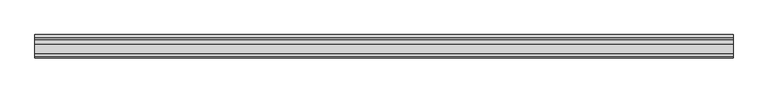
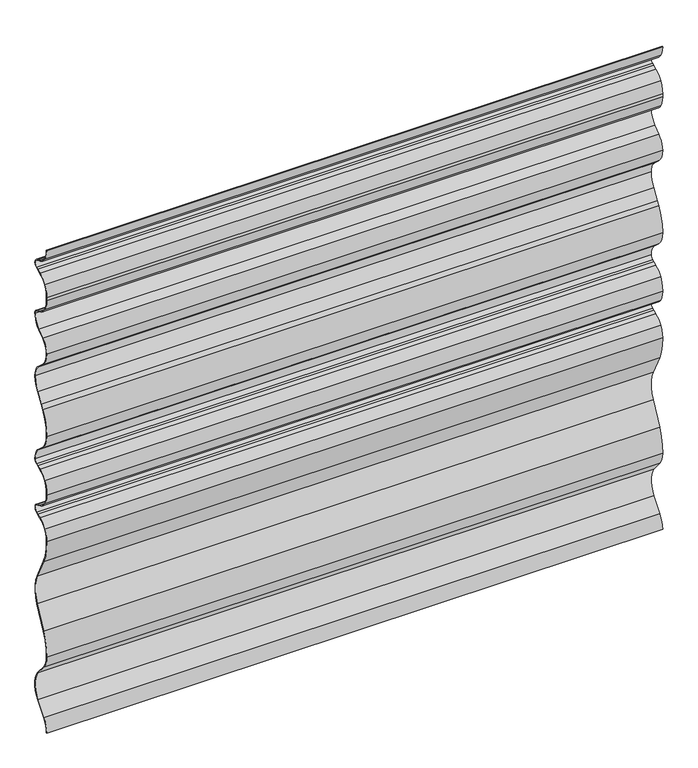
"""IFC4 building model written with IfcOpenShell, lengths in millimetres: plate geometry, Ritmica Horizontal 928 : Ritmica Horizontal 928."""

from ifc_helpers import new_model, si_unit, frame, origin, place, context, project, spatial, polyline, circle_curve, source, transform, mapped, element, save
from ifc_brep_helpers import plane_surface, cylinder_surface, revolved_surface, advanced_brep


def plate_309b9aa2(model_context):
    return source(origin(), model_context, "Body", "AdvancedBrep", [
        advanced_brep(
        [(-560.0, 6.5092615, 908.0620129), (-560.0, 21.2621067, 895.6153968), (-560.0, 28.45755, 892.7364297), (-560.0, 31.9226364, 891.0770661), (-560.0, 31.9284533, 875.0954695), (-560.0, 28.4645758, 873.4335839), (-560.0, 21.2712303, 870.5493796), (-560.0, 6.5274495, 858.0920274), (-560.0, 0.7421798, 836.9983174), (-560.0, 0.7421798, 831.6596456), (-560.0, 6.5447465, 810.5701527), (-560.0, 21.2975918, 798.1235366), (-560.0, 28.493035, 795.2445695), (-560.0, 31.9581214, 793.5852059), (-560.0, 36.9921573, 785.5962388), (-560.0, 24.9656186, 760.6206134), (-560.0, 12.9828956, 751.0704574), (-560.0, 1.0048783, 728.5919745), (-560.0, 13.0090533, 701.127971), (-560.0, 24.9992939, 690.0241978), (-560.0, 37.0440106, 665.0573339), (-560.0, 28.6299997, 638.3240963), (-560.0, 17.4991449, 620.9910926), (-560.0, 13.1043036, 613.5575548), (-560.0, 0.921776, 569.3793833), (-560.0, 12.9259511, 541.9153798), (-560.0, 24.9161915, 530.8116067), (-560.0, 36.9609087, 505.8415328), (-560.0, 31.9326896, 497.8521133), (-560.0, 28.4688119, 496.1902275), (-560.0, 21.2754341, 493.3060102), (-560.0, 6.5316868, 480.8486726), (-560.0, 0.8337564, 457.0856569), (-560.0, 6.3430179, 437.5469103), (-560.0, 21.0958632, 425.1002943), (-560.0, 28.2913064, 422.2213272), (-560.0, 31.7563928, 420.5619636), (-560.0, 31.7622098, 404.580367), (-560.0, 28.2983323, 402.9184814), (-560.0, 21.1049867, 400.034277), (-560.0, 6.361206, 387.5769248), (-560.0, 0.8661693, 368.0341733), (-560.0, 10.0476711, 324.2892209), (-560.0, 30.4443377, 283.7581494), (-560.0, 30.4639577, 229.8542794), (-560.0, 10.0968014, 189.3083707), (-560.0, 0.9471466, 145.5567461), (-560.0, 9.5590077, 121.7925982), (-560.0, 28.254799, 99.3683726), (-560.0, 28.274038, 46.5109184), (-560.0, 9.5945757, 23.7707747), (-560.0, 1.0000163, 0.0), (-560.0, 1.63e-05, 0.0), (-560.0, 8.826039, 24.4105804), (-560.0, 27.4885473, 47.1303588), (-560.0, 27.4697594, 98.7483605), (-560.0, 8.790937, 121.1522332), (-560.0, -0.0528427, 145.5386154), (-560.0, 9.1993025, 189.7494732), (-560.0, 29.5703625, 230.3031531), (-560.0, 29.5510695, 283.3086253), (-560.0, 9.1504935, 323.8474651), (-560.0, -0.133833, 368.0515751), (-560.0, 5.5079347, 388.0983921), (-560.0, 20.7330524, 400.9625361), (-560.0, 27.895533, 403.834365), (-560.0, 31.3296428, 405.4819688), (-560.0, 31.3244823, 419.6600471), (-560.0, 27.889174, 421.3051505), (-560.0, 20.7246046, 424.1717647), (-560.0, 5.4901265, 437.024822), (-560.0, -0.1662181, 457.0529178), (-560.0, 5.6750593, 481.3646468), (-560.0, 20.9034647, 494.2342551), (-560.0, 28.0660127, 497.1061111), (-560.0, 31.5001226, 498.7537151), (-560.0, 35.9609087, 505.841531), (-560.0, 24.2645169, 530.052163), (-560.0, 12.2464871, 541.1816709), (-560.0, -0.0782183, 569.3680226), (-560.0, 12.2502128, 614.0778463), (-560.0, 16.6477304, 621.5159109), (-560.0, 27.7982686, 638.8795656), (-560.0, 36.04401, 665.0587755), (-560.0, 24.3475224, 689.2648438), (-560.0, 12.3295893, 700.3942621), (-560.0, 0.0048783, 728.5916105), (-560.0, 12.391292, 751.8777021), (-560.0, 24.342358, 761.4026277), (-560.0, 35.9921573, 785.5958749), (-560.0, 31.5262109, 792.6832895), (-560.0, 28.0909026, 794.3283929), (-560.0, 20.9248539, 797.1955989), (-560.0, 5.6893168, 810.0521734), (-560.0, -0.2558769, 831.6592816), (-560.0, -0.2578202, 836.9981365), (-560.0, 5.6708241, 858.6080051), (-560.0, 20.8992959, 871.4776387), (-560.0, 28.0617766, 874.3494676), (-560.0, 31.4958863, 875.9970713), (-560.0, 31.4907258, 890.1751497), (-560.0, 28.0554176, 891.8202531), (-560.0, 20.8908482, 894.6868673), (-560.0, 5.6563701, 907.5399245), (-560.0, 0.0, 927.600395), (-560.0, 1.0000001, 927.600395), (560.0, 6.5092615, 908.0620129), (560.0, 1.0000001, 927.600395), (560.0, 0.0, 927.600395), (560.0, 5.6563701, 907.5399245), (560.0, 20.8908482, 894.6868673), (560.0, 28.0554176, 891.8202531), (560.0, 31.4907258, 890.1751497), (560.0, 31.4958863, 875.9970713), (560.0, 28.0617766, 874.3494676), (560.0, 20.8992959, 871.4776387), (560.0, 5.6708241, 858.6080051), (560.0, -0.2578202, 836.9981365), (560.0, -0.2578202, 831.6596456), (560.0, 5.6893168, 810.0521734), (560.0, 20.9248539, 797.1955989), (560.0, 28.0909026, 794.3283929), (560.0, 31.5262109, 792.6832895), (560.0, 35.9921573, 785.5958749), (560.0, 24.342358, 761.4026277), (560.0, 12.391292, 751.8777021), (560.0, 0.0048783, 728.5916105), (560.0, 12.3295893, 700.3942621), (560.0, 24.3475224, 689.2648438), (560.0, 36.04401, 665.0587755), (560.0, 27.7982686, 638.8795656), (560.0, 16.6477304, 621.5159109), (560.0, 12.2502128, 614.0778463), (560.0, -0.0782183, 569.3680226), (560.0, 12.2464871, 541.1816709), (560.0, 24.2645169, 530.052163), (560.0, 35.9609087, 505.841531), (560.0, 31.5001226, 498.7537151), (560.0, 28.0660127, 497.1061111), (560.0, 20.9034647, 494.2342551), (560.0, 5.6750593, 481.3646468), (560.0, -0.1662181, 457.0529178), (560.0, 5.4901265, 437.024822), (560.0, 20.7246046, 424.1717647), (560.0, 27.889174, 421.3051505), (560.0, 31.3244823, 419.6600471), (560.0, 31.3296428, 405.4819688), (560.0, 27.895533, 403.834365), (560.0, 20.7330524, 400.9625361), (560.0, 5.5079347, 388.0983921), (560.0, -0.133833, 368.0515751), (560.0, 9.1504935, 323.8474651), (560.0, 29.5510695, 283.3086253), (560.0, 29.5703625, 230.3031531), (560.0, 9.1993025, 189.7494732), (560.0, -0.0528427, 145.5386154), (560.0, 8.790937, 121.1522332), (560.0, 27.4697594, 98.7483605), (560.0, 27.4885473, 47.1303588), (560.0, 8.826039, 24.4105804), (560.0, 1.63e-05, 0.0), (560.0, 1.0000163, 0.0), (560.0, 9.5945757, 23.7707747), (560.0, 28.274038, 46.5109184), (560.0, 28.254799, 99.3683726), (560.0, 9.5590077, 121.7925982), (560.0, 0.9471466, 145.5567461), (560.0, 10.0968014, 189.3083707), (560.0, 30.4639577, 229.8542794), (560.0, 30.4443377, 283.7581494), (560.0, 10.0476711, 324.2892209), (560.0, 0.8661693, 368.0341733), (560.0, 6.361206, 387.5769248), (560.0, 21.1049867, 400.034277), (560.0, 28.2983323, 402.9184814), (560.0, 31.7622098, 404.580367), (560.0, 31.7563928, 420.5619636), (560.0, 28.2913064, 422.2213272), (560.0, 21.0958632, 425.1002943), (560.0, 6.3430179, 437.5469103), (560.0, 0.8337564, 457.0856569), (560.0, 6.5316868, 480.8486726), (560.0, 21.2754341, 493.3060102), (560.0, 28.4688119, 496.1902275), (560.0, 31.9326896, 497.8521133), (560.0, 36.9609087, 505.8415328), (560.0, 24.9161915, 530.8116067), (560.0, 12.9259511, 541.9153798), (560.0, 0.921776, 569.3793833), (560.0, 13.1043036, 613.5575548), (560.0, 17.4991449, 620.9910926), (560.0, 28.6299997, 638.3240963), (560.0, 37.0440106, 665.0573339), (560.0, 24.9992939, 690.0241978), (560.0, 13.0090533, 701.127971), (560.0, 1.0048783, 728.5919745), (560.0, 12.9828956, 751.0704574), (560.0, 24.9656186, 760.6206134), (560.0, 36.9921573, 785.5962388), (560.0, 31.9581214, 793.5852059), (560.0, 28.493035, 795.2445695), (560.0, 21.2975918, 798.1235366), (560.0, 6.5447465, 810.5701527), (560.0, 0.744123, 831.6596456), (560.0, 0.7421798, 836.9983174), (560.0, 6.5274495, 858.0920274), (560.0, 21.2712303, 870.5493796), (560.0, 28.4645758, 873.4335839), (560.0, 31.9284533, 875.0954695), (560.0, 31.9226364, 891.0770661), (560.0, 28.45755, 892.7364297), (560.0, 21.2621067, 895.6153968)],
        [
            (0, 1, circle_curve(frame((-560.0, 32.6219637, 924.0466233), z_axis=(1.0, 0.0, 0.0), x_axis=(0.0, 0.0, 1.0)), 30.6166783)),
            (1, 2),
            (2, 3),
            (3, 4, circle_curve(frame((-560.0, 28.0953282, 883.0848737), z_axis=(-1.0, 0.0, 0.0), x_axis=(0.0, 0.0, 1.0)), 8.8613445)),
            (4, 5),
            (5, 6),
            (6, 7, circle_curve(frame((-560.0, 32.651781, 842.1264302), z_axis=(1.0, 0.0, 0.0), x_axis=(0.0, 0.0, 1.0)), 30.6166783)),
            (7, 8, circle_curve(frame((-560.0, 42.034972, 837.0133472), z_axis=(1.0, 0.0, 0.0), x_axis=(0.0, 0.0, 1.0)), 41.2927949)),
            (8, 9),
            (9, 10, circle_curve(frame((-560.0, 42.0369151, 831.6746753), z_axis=(1.0, 0.0, 0.0), x_axis=(0.0, 0.0, 1.0)), 41.2927949)),
            (10, 11, circle_curve(frame((-560.0, 32.8606059, 826.7955631), z_axis=(1.0, 0.0, 0.0), x_axis=(0.0, 0.0, 1.0)), 30.9158276)),
            (11, 12),
            (12, 13),
            (13, 14, circle_curve(frame((-560.0, 28.1308133, 785.5930135), z_axis=(-1.0, 0.0, 0.0), x_axis=(0.0, 0.0, 1.0)), 8.8613445)),
            (14, 15, circle_curve(frame((-560.0, 5.0694602, 785.5846196), z_axis=(-1.0, 0.0, 0.0), x_axis=(0.0, 0.0, 1.0)), 31.9226992)),
            (15, 16),
            (16, 17, circle_curve(frame((-560.0, 28.0674647, 728.6018247), z_axis=(1.0, 0.0, 0.0), x_axis=(0.0, 0.0, 1.0)), 27.0625882)),
            (17, 18, circle_curve(frame((-560.0, 38.4552002, 728.6056057), z_axis=(1.0, 0.0, 0.0), x_axis=(0.0, 0.0, 1.0)), 37.4503244)),
            (18, 19),
            (19, 20, circle_curve(frame((-560.0, 5.1213136, 665.0457146), z_axis=(-1.0, 0.0, 0.0), x_axis=(0.0, 0.0, 1.0)), 31.9226992)),
            (20, 21, circle_curve(frame((-560.0, -10.1198118, 665.2109304), z_axis=(-1.0, 0.0, 0.0), x_axis=(0.0, 0.0, 1.0)), 47.1640725)),
            (21, 22),
            (22, 23),
            (23, 24, circle_curve(frame((-560.0, 80.6713796, 571.1565204), z_axis=(1.0, 0.0, 0.0), x_axis=(0.0, 0.0, 1.0)), 79.769402)),
            (24, 25, circle_curve(frame((-560.0, 38.372098, 569.3930144), z_axis=(1.0, 0.0, 0.0), x_axis=(0.0, 0.0, 1.0)), 37.4503244)),
            (25, 26),
            (26, 27, circle_curve(frame((-560.0, 5.0555271, 505.8414768), z_axis=(-1.0, 0.0, 0.0), x_axis=(0.0, 0.0, 1.0)), 31.9053816)),
            (27, 28, circle_curve(frame((-560.0, 28.0995643, 505.8415173), z_axis=(-1.0, 0.0, 0.0), x_axis=(0.0, 0.0, 1.0)), 8.8613444)),
            (28, 29),
            (29, 30),
            (30, 31, circle_curve(frame((-560.0, 32.6560172, 464.8830737), z_axis=(1.0, 0.0, 0.0), x_axis=(0.0, 0.0, 1.0)), 30.6166783)),
            (31, 32, circle_curve(frame((-560.0, 42.0392082, 459.7699907), z_axis=(1.0, 0.0, 0.0), x_axis=(0.0, 0.0, 1.0)), 41.2927948)),
            (32, 33, circle_curve(frame((-560.0, 38.2840783, 457.0992876), z_axis=(1.0, 0.0, 0.0), x_axis=(0.0, 0.0, 1.0)), 37.4503244)),
            (33, 34, circle_curve(frame((-560.0, 32.4557202, 453.5315208), z_axis=(1.0, 0.0, 0.0), x_axis=(0.0, 0.0, 1.0)), 30.6166783)),
            (34, 35),
            (35, 36),
            (36, 37, circle_curve(frame((-560.0, 27.9290847, 412.5697711), z_axis=(-1.0, 0.0, 0.0), x_axis=(0.0, 0.0, 1.0)), 8.8613445)),
            (37, 38),
            (38, 39),
            (39, 40, circle_curve(frame((-560.0, 32.4855375, 371.6113276), z_axis=(1.0, 0.0, 0.0), x_axis=(0.0, 0.0, 1.0)), 30.6166783)),
            (40, 41, circle_curve(frame((-560.0, 38.3164913, 368.0478045), z_axis=(1.0, 0.0, 0.0), x_axis=(0.0, 0.0, 1.0)), 37.4503244)),
            (41, 42, circle_curve(frame((-560.0, 94.1023268, 364.7672254), z_axis=(1.0, 0.0, 0.0), x_axis=(0.0, 0.0, 1.0)), 93.293376)),
            (42, 43),
            (43, 44, circle_curve(frame((-560.0, -23.1517542, 256.7867029), z_axis=(-1.0, 0.0, 0.0), x_axis=(0.0, 0.0, 1.0)), 60.0)),
            (44, 45),
            (45, 46, circle_curve(frame((-560.0, 94.1809012, 148.8915653), z_axis=(1.0, 0.0, 0.0), x_axis=(0.0, 0.0, 1.0)), 93.293376)),
            (46, 47, circle_curve(frame((-560.0, 38.0785645, 145.5702612), z_axis=(1.0, 0.0, 0.0), x_axis=(0.0, 0.0, 1.0)), 37.1314203)),
            (47, 48),
            (48, 49, circle_curve(frame((-560.0, -7.0897542, 72.9267773), z_axis=(-1.0, 0.0, 0.0), x_axis=(0.0, 0.0, 1.0)), 44.1406321)),
            (49, 50),
            (50, 51, circle_curve(frame((-560.0, 38.131434, 0.0138791), z_axis=(1.0, 0.0, 0.0), x_axis=(0.0, 0.0, 1.0)), 37.1314203)),
            (51, 52),
            (52, 53, circle_curve(frame((-560.0, 38.131434, 0.0138791), z_axis=(-1.0, 0.0, 0.0), x_axis=(0.0, 0.0, 1.0)), 38.1314203)),
            (53, 54),
            (54, 55, circle_curve(frame((-560.0, -7.0897542, 72.9267773), z_axis=(1.0, 0.0, 0.0), x_axis=(0.0, 0.0, 1.0)), 43.1406321)),
            (55, 56),
            (56, 57, circle_curve(frame((-560.0, 38.0785645, 145.5702612), z_axis=(-1.0, 0.0, 0.0), x_axis=(0.0, 0.0, 1.0)), 38.1314203)),
            (57, 58, circle_curve(frame((-560.0, 94.1809012, 148.8915653), z_axis=(-1.0, 0.0, 0.0), x_axis=(0.0, 0.0, 1.0)), 94.293376)),
            (58, 59),
            (59, 60, circle_curve(frame((-560.0, -23.1517542, 256.7867029), z_axis=(1.0, 0.0, 0.0), x_axis=(0.0, 0.0, 1.0)), 59.0)),
            (60, 61),
            (61, 62, circle_curve(frame((-560.0, 94.1023268, 364.7672254), z_axis=(-1.0, 0.0, 0.0), x_axis=(0.0, 0.0, 1.0)), 94.293376)),
            (62, 63, circle_curve(frame((-560.0, 38.3164913, 368.0478045), z_axis=(-1.0, 0.0, 0.0), x_axis=(0.0, 0.0, 1.0)), 38.4503244)),
            (63, 64, circle_curve(frame((-560.0, 32.4855375, 371.6113276), z_axis=(-1.0, 0.0, 0.0), x_axis=(0.0, 0.0, 1.0)), 31.6166783)),
            (64, 65),
            (65, 66),
            (66, 67, circle_curve(frame((-560.0, 27.9290847, 412.5697711), z_axis=(1.0, 0.0, 0.0), x_axis=(0.0, 0.0, 1.0)), 7.8613445)),
            (67, 68),
            (68, 69),
            (69, 70, circle_curve(frame((-560.0, 32.4557202, 453.5315208), z_axis=(-1.0, 0.0, 0.0), x_axis=(0.0, 0.0, 1.0)), 31.6166783)),
            (70, 71, circle_curve(frame((-560.0, 38.2840783, 457.0992876), z_axis=(-1.0, 0.0, 0.0), x_axis=(0.0, 0.0, 1.0)), 38.4503244)),
            (71, 72, circle_curve(frame((-560.0, 42.0392082, 459.7699907), z_axis=(-1.0, 0.0, 0.0), x_axis=(0.0, 0.0, 1.0)), 42.2927948)),
            (72, 73, circle_curve(frame((-560.0, 32.6560172, 464.8830737), z_axis=(-1.0, 0.0, 0.0), x_axis=(0.0, 0.0, 1.0)), 31.6166782)),
            (73, 74),
            (74, 75),
            (75, 76, circle_curve(frame((-560.0, 28.0995643, 505.8415173), z_axis=(1.0, 0.0, 0.0), x_axis=(0.0, 0.0, 1.0)), 7.8613444)),
            (76, 77, circle_curve(frame((-560.0, 5.0555271, 505.8414768), z_axis=(1.0, 0.0, 0.0), x_axis=(0.0, 0.0, 1.0)), 30.9053816)),
            (77, 78),
            (78, 79, circle_curve(frame((-560.0, 38.372098, 569.3930144), z_axis=(-1.0, 0.0, 0.0), x_axis=(0.0, 0.0, 1.0)), 38.4503244)),
            (79, 80, circle_curve(frame((-560.0, 80.6713796, 571.1565204), z_axis=(-1.0, 0.0, 0.0), x_axis=(0.0, 0.0, 1.0)), 80.769402)),
            (80, 81),
            (81, 82),
            (82, 83, circle_curve(frame((-560.0, -10.1198118, 665.2109304), z_axis=(1.0, 0.0, 0.0), x_axis=(0.0, 0.0, 1.0)), 46.1640725)),
            (83, 84, circle_curve(frame((-560.0, 5.1213136, 665.0457146), z_axis=(1.0, 0.0, 0.0), x_axis=(0.0, 0.0, 1.0)), 30.9226992)),
            (84, 85),
            (85, 86, circle_curve(frame((-560.0, 38.4552002, 728.6056057), z_axis=(-1.0, 0.0, 0.0), x_axis=(0.0, 0.0, 1.0)), 38.4503244)),
            (86, 87, circle_curve(frame((-560.0, 28.0674647, 728.6018247), z_axis=(-1.0, 0.0, 0.0), x_axis=(0.0, 0.0, 1.0)), 28.0625882)),
            (87, 88),
            (88, 89, circle_curve(frame((-560.0, 5.0694602, 785.5846196), z_axis=(1.0, 0.0, 0.0), x_axis=(0.0, 0.0, 1.0)), 30.9226992)),
            (89, 90, circle_curve(frame((-560.0, 28.1308133, 785.5930135), z_axis=(1.0, 0.0, 0.0), x_axis=(0.0, 0.0, 1.0)), 7.8613445)),
            (90, 91),
            (91, 92),
            (92, 93, circle_curve(frame((-560.0, 32.8606059, 826.7955631), z_axis=(-1.0, 0.0, 0.0), x_axis=(0.0, 0.0, 1.0)), 31.9158276)),
            (93, 94, circle_curve(frame((-560.0, 42.0369151, 831.6746753), z_axis=(-1.0, 0.0, 0.0), x_axis=(0.0, 0.0, 1.0)), 42.2927949)),
            (94, 95),
            (95, 96, circle_curve(frame((-560.0, 42.034972, 837.0133472), z_axis=(-1.0, 0.0, 0.0), x_axis=(0.0, 0.0, 1.0)), 42.2927949)),
            (96, 97, circle_curve(frame((-560.0, 32.651781, 842.1264302), z_axis=(-1.0, 0.0, 0.0), x_axis=(0.0, 0.0, 1.0)), 31.6166783)),
            (97, 98),
            (98, 99),
            (99, 100, circle_curve(frame((-560.0, 28.0953282, 883.0848737), z_axis=(1.0, 0.0, 0.0), x_axis=(0.0, 0.0, 1.0)), 7.8613445)),
            (100, 101),
            (101, 102),
            (102, 103, circle_curve(frame((-560.0, 32.6219637, 924.0466233), z_axis=(-1.0, 0.0, 0.0), x_axis=(0.0, 0.0, 1.0)), 31.6166783)),
            (103, 104, circle_curve(frame((-560.0, 38.4503219, 927.6143902), z_axis=(-1.0, 0.0, 0.0), x_axis=(0.0, 0.0, 1.0)), 38.4503244)),
            (104, 105),
            (105, 0, circle_curve(frame((-560.0, 38.4503219, 927.6143902), z_axis=(1.0, 0.0, 0.0), x_axis=(0.0, 0.0, 1.0)), 37.4503244)),
            (106, 107, circle_curve(frame((560.0, 38.4503219, 927.6143902), z_axis=(-1.0, 0.0, 0.0), x_axis=(0.0, 0.0, 1.0)), 37.4503244)),
            (107, 108),
            (108, 109, circle_curve(frame((560.0, 38.4503219, 927.6143902), z_axis=(1.0, 0.0, 0.0), x_axis=(0.0, 0.0, 1.0)), 38.4503244)),
            (109, 110, circle_curve(frame((560.0, 32.6219637, 924.0466233), z_axis=(1.0, 0.0, 0.0), x_axis=(0.0, 0.0, 1.0)), 31.6166783)),
            (110, 111),
            (111, 112),
            (112, 113, circle_curve(frame((560.0, 28.0953282, 883.0848737), z_axis=(-1.0, 0.0, 0.0), x_axis=(0.0, 0.0, 1.0)), 7.8613445)),
            (113, 114),
            (114, 115),
            (115, 116, circle_curve(frame((560.0, 32.651781, 842.1264302), z_axis=(1.0, 0.0, 0.0), x_axis=(0.0, 0.0, 1.0)), 31.6166783)),
            (116, 117, circle_curve(frame((560.0, 42.034972, 837.0133472), z_axis=(1.0, 0.0, 0.0), x_axis=(0.0, 0.0, 1.0)), 42.2927949)),
            (117, 118),
            (118, 119, circle_curve(frame((560.0, 42.0369151, 831.6746753), z_axis=(1.0, 0.0, 0.0), x_axis=(0.0, 0.0, 1.0)), 42.2927949)),
            (119, 120, circle_curve(frame((560.0, 32.8606059, 826.7955631), z_axis=(1.0, 0.0, 0.0), x_axis=(0.0, 0.0, 1.0)), 31.9158276)),
            (120, 121),
            (121, 122),
            (122, 123, circle_curve(frame((560.0, 28.1308133, 785.5930135), z_axis=(-1.0, 0.0, 0.0), x_axis=(0.0, 0.0, 1.0)), 7.8613445)),
            (123, 124, circle_curve(frame((560.0, 5.0694602, 785.5846196), z_axis=(-1.0, 0.0, 0.0), x_axis=(0.0, 0.0, 1.0)), 30.9226992)),
            (124, 125),
            (125, 126, circle_curve(frame((560.0, 28.0674647, 728.6018247), z_axis=(1.0, 0.0, 0.0), x_axis=(0.0, 0.0, 1.0)), 28.0625882)),
            (126, 127, circle_curve(frame((560.0, 38.4552002, 728.6056057), z_axis=(1.0, 0.0, 0.0), x_axis=(0.0, 0.0, 1.0)), 38.4503244)),
            (127, 128),
            (128, 129, circle_curve(frame((560.0, 5.1213136, 665.0457146), z_axis=(-1.0, 0.0, 0.0), x_axis=(0.0, 0.0, 1.0)), 30.9226992)),
            (129, 130, circle_curve(frame((560.0, -10.1198118, 665.2109304), z_axis=(-1.0, 0.0, 0.0), x_axis=(0.0, 0.0, 1.0)), 46.1640725)),
            (130, 131),
            (131, 132),
            (132, 133, circle_curve(frame((560.0, 80.6713796, 571.1565204), z_axis=(1.0, 0.0, 0.0), x_axis=(0.0, 0.0, 1.0)), 80.769402)),
            (133, 134, circle_curve(frame((560.0, 38.372098, 569.3930144), z_axis=(1.0, 0.0, 0.0), x_axis=(0.0, 0.0, 1.0)), 38.4503244)),
            (134, 135),
            (135, 136, circle_curve(frame((560.0, 5.0555271, 505.8414768), z_axis=(-1.0, 0.0, 0.0), x_axis=(0.0, 0.0, 1.0)), 30.9053816)),
            (136, 137, circle_curve(frame((560.0, 28.0995643, 505.8415173), z_axis=(-1.0, 0.0, 0.0), x_axis=(0.0, 0.0, 1.0)), 7.8613444)),
            (137, 138),
            (138, 139),
            (139, 140, circle_curve(frame((560.0, 32.6560172, 464.8830737), z_axis=(1.0, 0.0, 0.0), x_axis=(0.0, 0.0, 1.0)), 31.6166782)),
            (140, 141, circle_curve(frame((560.0, 42.0392082, 459.7699907), z_axis=(1.0, 0.0, 0.0), x_axis=(0.0, 0.0, 1.0)), 42.2927948)),
            (141, 142, circle_curve(frame((560.0, 38.2840783, 457.0992876), z_axis=(1.0, 0.0, 0.0), x_axis=(0.0, 0.0, 1.0)), 38.4503244)),
            (142, 143, circle_curve(frame((560.0, 32.4557202, 453.5315208), z_axis=(1.0, 0.0, 0.0), x_axis=(0.0, 0.0, 1.0)), 31.6166783)),
            (143, 144),
            (144, 145),
            (145, 146, circle_curve(frame((560.0, 27.9290847, 412.5697711), z_axis=(-1.0, 0.0, 0.0), x_axis=(0.0, 0.0, 1.0)), 7.8613445)),
            (146, 147),
            (147, 148),
            (148, 149, circle_curve(frame((560.0, 32.4855375, 371.6113276), z_axis=(1.0, 0.0, 0.0), x_axis=(0.0, 0.0, 1.0)), 31.6166783)),
            (149, 150, circle_curve(frame((560.0, 38.3164913, 368.0478045), z_axis=(1.0, 0.0, 0.0), x_axis=(0.0, 0.0, 1.0)), 38.4503244)),
            (150, 151, circle_curve(frame((560.0, 94.1023268, 364.7672254), z_axis=(1.0, 0.0, 0.0), x_axis=(0.0, 0.0, 1.0)), 94.293376)),
            (151, 152),
            (152, 153, circle_curve(frame((560.0, -23.1517542, 256.7867029), z_axis=(-1.0, 0.0, 0.0), x_axis=(0.0, 0.0, 1.0)), 59.0)),
            (153, 154),
            (154, 155, circle_curve(frame((560.0, 94.1809012, 148.8915653), z_axis=(1.0, 0.0, 0.0), x_axis=(0.0, 0.0, 1.0)), 94.293376)),
            (155, 156, circle_curve(frame((560.0, 38.0785645, 145.5702612), z_axis=(1.0, 0.0, 0.0), x_axis=(0.0, 0.0, 1.0)), 38.1314203)),
            (156, 157),
            (157, 158, circle_curve(frame((560.0, -7.0897542, 72.9267773), z_axis=(-1.0, 0.0, 0.0), x_axis=(0.0, 0.0, 1.0)), 43.1406321)),
            (158, 159),
            (159, 160, circle_curve(frame((560.0, 38.131434, 0.0138791), z_axis=(1.0, 0.0, 0.0), x_axis=(0.0, 0.0, 1.0)), 38.1314203)),
            (160, 161),
            (161, 162, circle_curve(frame((560.0, 38.131434, 0.0138791), z_axis=(-1.0, 0.0, 0.0), x_axis=(0.0, 0.0, 1.0)), 37.1314203)),
            (162, 163),
            (163, 164, circle_curve(frame((560.0, -7.0897542, 72.9267773), z_axis=(1.0, 0.0, 0.0), x_axis=(0.0, 0.0, 1.0)), 44.1406321)),
            (164, 165),
            (165, 166, circle_curve(frame((560.0, 38.0785645, 145.5702612), z_axis=(-1.0, 0.0, 0.0), x_axis=(0.0, 0.0, 1.0)), 37.1314203)),
            (166, 167, circle_curve(frame((560.0, 94.1809012, 148.8915653), z_axis=(-1.0, 0.0, 0.0), x_axis=(0.0, 0.0, 1.0)), 93.293376)),
            (167, 168),
            (168, 169, circle_curve(frame((560.0, -23.1517542, 256.7867029), z_axis=(1.0, 0.0, 0.0), x_axis=(0.0, 0.0, 1.0)), 60.0)),
            (169, 170),
            (170, 171, circle_curve(frame((560.0, 94.1023268, 364.7672254), z_axis=(-1.0, 0.0, 0.0), x_axis=(0.0, 0.0, 1.0)), 93.293376)),
            (171, 172, circle_curve(frame((560.0, 38.3164913, 368.0478045), z_axis=(-1.0, 0.0, 0.0), x_axis=(0.0, 0.0, 1.0)), 37.4503244)),
            (172, 173, circle_curve(frame((560.0, 32.4855375, 371.6113276), z_axis=(-1.0, 0.0, 0.0), x_axis=(0.0, 0.0, 1.0)), 30.6166783)),
            (173, 174),
            (174, 175),
            (175, 176, circle_curve(frame((560.0, 27.9290847, 412.5697711), z_axis=(1.0, 0.0, 0.0), x_axis=(0.0, 0.0, 1.0)), 8.8613445)),
            (176, 177),
            (177, 178),
            (178, 179, circle_curve(frame((560.0, 32.4557202, 453.5315208), z_axis=(-1.0, 0.0, 0.0), x_axis=(0.0, 0.0, 1.0)), 30.6166783)),
            (179, 180, circle_curve(frame((560.0, 38.2840783, 457.0992876), z_axis=(-1.0, 0.0, 0.0), x_axis=(0.0, 0.0, 1.0)), 37.4503244)),
            (180, 181, circle_curve(frame((560.0, 42.0392082, 459.7699907), z_axis=(-1.0, 0.0, 0.0), x_axis=(0.0, 0.0, 1.0)), 41.2927948)),
            (181, 182, circle_curve(frame((560.0, 32.6560172, 464.8830737), z_axis=(-1.0, 0.0, 0.0), x_axis=(0.0, 0.0, 1.0)), 30.6166783)),
            (182, 183),
            (183, 184),
            (184, 185, circle_curve(frame((560.0, 28.0995643, 505.8415173), z_axis=(1.0, 0.0, 0.0), x_axis=(0.0, 0.0, 1.0)), 8.8613444)),
            (185, 186, circle_curve(frame((560.0, 5.0555271, 505.8414768), z_axis=(1.0, 0.0, 0.0), x_axis=(0.0, 0.0, 1.0)), 31.9053816)),
            (186, 187),
            (187, 188, circle_curve(frame((560.0, 38.372098, 569.3930144), z_axis=(-1.0, 0.0, 0.0), x_axis=(0.0, 0.0, 1.0)), 37.4503244)),
            (188, 189, circle_curve(frame((560.0, 80.6713796, 571.1565204), z_axis=(-1.0, 0.0, 0.0), x_axis=(0.0, 0.0, 1.0)), 79.769402)),
            (189, 190),
            (190, 191),
            (191, 192, circle_curve(frame((560.0, -10.1198118, 665.2109304), z_axis=(1.0, 0.0, 0.0), x_axis=(0.0, 0.0, 1.0)), 47.1640725)),
            (192, 193, circle_curve(frame((560.0, 5.1213136, 665.0457146), z_axis=(1.0, 0.0, 0.0), x_axis=(0.0, 0.0, 1.0)), 31.9226992)),
            (193, 194),
            (194, 195, circle_curve(frame((560.0, 38.4552002, 728.6056057), z_axis=(-1.0, 0.0, 0.0), x_axis=(0.0, 0.0, 1.0)), 37.4503244)),
            (195, 196, circle_curve(frame((560.0, 28.0674647, 728.6018247), z_axis=(-1.0, 0.0, 0.0), x_axis=(0.0, 0.0, 1.0)), 27.0625882)),
            (196, 197),
            (197, 198, circle_curve(frame((560.0, 5.0694602, 785.5846196), z_axis=(1.0, 0.0, 0.0), x_axis=(0.0, 0.0, 1.0)), 31.9226992)),
            (198, 199, circle_curve(frame((560.0, 28.1308133, 785.5930135), z_axis=(1.0, 0.0, 0.0), x_axis=(0.0, 0.0, 1.0)), 8.8613445)),
            (199, 200),
            (200, 201),
            (201, 202, circle_curve(frame((560.0, 32.8606059, 826.7955631), z_axis=(-1.0, 0.0, 0.0), x_axis=(0.0, 0.0, 1.0)), 30.9158276)),
            (202, 203, circle_curve(frame((560.0, 42.0369151, 831.6746753), z_axis=(-1.0, 0.0, 0.0), x_axis=(0.0, 0.0, 1.0)), 41.2927949)),
            (203, 204),
            (204, 205, circle_curve(frame((560.0, 42.034972, 837.0133472), z_axis=(-1.0, 0.0, 0.0), x_axis=(0.0, 0.0, 1.0)), 41.2927949)),
            (205, 206, circle_curve(frame((560.0, 32.651781, 842.1264302), z_axis=(-1.0, 0.0, 0.0), x_axis=(0.0, 0.0, 1.0)), 30.6166783)),
            (206, 207),
            (207, 208),
            (208, 209, circle_curve(frame((560.0, 28.0953282, 883.0848737), z_axis=(1.0, 0.0, 0.0), x_axis=(0.0, 0.0, 1.0)), 8.8613445)),
            (209, 210),
            (210, 211),
            (211, 106, circle_curve(frame((560.0, 32.6219637, 924.0466233), z_axis=(-1.0, 0.0, 0.0), x_axis=(0.0, 0.0, 1.0)), 30.6166783)),
            (0, 106),
            (211, 1),
            (210, 2),
            (209, 3),
            (208, 4),
            (207, 5),
            (206, 6),
            (205, 7),
            (204, 8),
            (203, 9),
            (202, 10),
            (201, 11),
            (200, 12),
            (199, 13),
            (198, 14),
            (197, 15),
            (196, 16),
            (195, 17),
            (194, 18),
            (193, 19),
            (192, 20),
            (191, 21),
            (190, 22),
            (189, 23),
            (188, 24),
            (187, 25),
            (186, 26),
            (185, 27),
            (184, 28),
            (183, 29),
            (182, 30),
            (181, 31),
            (180, 32),
            (179, 33),
            (178, 34),
            (177, 35),
            (176, 36),
            (175, 37),
            (174, 38),
            (173, 39),
            (172, 40),
            (171, 41),
            (170, 42),
            (169, 43),
            (168, 44),
            (167, 45),
            (166, 46),
            (165, 47),
            (164, 48),
            (163, 49),
            (162, 50),
            (161, 51),
            (160, 52),
            (159, 53),
            (158, 54),
            (157, 55),
            (156, 56),
            (155, 57),
            (154, 58),
            (153, 59),
            (152, 60),
            (151, 61),
            (150, 62),
            (149, 63),
            (148, 64),
            (147, 65),
            (146, 66),
            (145, 67),
            (144, 68),
            (143, 69),
            (142, 70),
            (141, 71),
            (140, 72),
            (139, 73),
            (138, 74),
            (137, 75),
            (136, 76),
            (135, 77),
            (134, 78),
            (133, 79),
            (132, 80),
            (131, 81),
            (130, 82),
            (129, 83),
            (128, 84),
            (127, 85),
            (126, 86),
            (125, 87),
            (124, 88),
            (123, 89),
            (122, 90),
            (121, 91),
            (120, 92),
            (119, 93),
            (118, 94),
            (117, 95),
            (116, 96),
            (115, 97),
            (114, 98),
            (113, 99),
            (112, 100),
            (111, 101),
            (110, 102),
            (109, 103),
            (108, 104),
            (107, 105),
        ],
        [
            plane_surface(frame((-560.0, 32.6219637, 954.6633016), z_axis=(-1.0, 0.0, 0.0), x_axis=(0.0, -1.0, 0.0))),
            plane_surface(frame((560.0, 32.6219637, 954.6633016), z_axis=(1.0, 0.0, 0.0), x_axis=(0.0, 1.0, 0.0))),
            revolved_surface(polyline([(560.0, 32.6219637, 954.6633016), (-560.0, 32.6219637, 954.6633016)]), (560.0, 32.6219637, 924.0466233), (1.0, 0.0, 0.0)),
            plane_surface(frame((-560.0, 21.2621067, 895.6153968), z_axis=(0.0, 0.3714785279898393, 0.9284415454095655), x_axis=(1.0, 0.0, 0.0))),
            plane_surface(frame((-560.0, 28.45755, 892.7364297), z_axis=(0.0, 0.43191054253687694, 0.9019164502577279), x_axis=(1.0, 0.0, 0.0))),
            cylinder_surface(frame((560.0, 28.0953282, 883.0848737), z_axis=(-1.0, 0.0, 0.0), x_axis=(0.0, 0.0, 1.0)), 8.8613445),
            plane_surface(frame((-560.0, 31.9284533, 875.0954695), z_axis=(0.0, 0.43256698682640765, -0.9016017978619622), x_axis=(1.0, 0.0, 0.0))),
            plane_surface(frame((-560.0, 28.4645758, 873.4335839), z_axis=(0.0, 0.3721542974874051, -0.928170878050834), x_axis=(1.0, 0.0, 0.0))),
            revolved_surface(polyline([(560.0, 32.651781, 872.7431085), (-560.0, 32.651781, 872.7431085)]), (560.0, 32.651781, 842.1264302), (1.0, 0.0, 0.0)),
            revolved_surface(polyline([(560.0, 42.034972, 878.3061421), (-560.0, 42.034972, 878.3061421)]), (560.0, 42.034972, 837.0133472), (1.0, 0.0, 0.0)),
            plane_surface(frame((-560.0, 0.7421798, 836.9983174), z_axis=(0.0, 1.0, 0.0), x_axis=(1.0, 0.0, 0.0))),
            revolved_surface(polyline([(560.0, 42.0369151, 872.9674702), (-560.0, 42.0369151, 872.9674702)]), (560.0, 42.0369151, 831.6746753), (1.0, 0.0, 0.0)),
            revolved_surface(polyline([(560.0, 32.8606059, 857.7113907), (-560.0, 32.8606059, 857.7113907)]), (560.0, 32.8606059, 826.7955631), (1.0, 0.0, 0.0)),
            plane_surface(frame((-560.0, 21.2975918, 798.1235366), z_axis=(0.0, 0.3714785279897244, 0.9284415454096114), x_axis=(1.0, 0.0, 0.0))),
            plane_surface(frame((-560.0, 28.493035, 795.2445695), z_axis=(0.0, 0.4319105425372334, 0.9019164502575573), x_axis=(1.0, 0.0, 0.0))),
            cylinder_surface(frame((560.0, 28.1308133, 785.5930135), z_axis=(-1.0, 0.0, 0.0), x_axis=(0.0, 0.0, 1.0)), 8.8613445),
            cylinder_surface(frame((560.0, 5.0694602, 785.5846196), z_axis=(-1.0, 0.0, 0.0), x_axis=(0.0, 0.0, 1.0)), 31.9226992),
            plane_surface(frame((-560.0, 24.9656186, 760.6206134), z_axis=(0.0, 0.6232605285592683, -0.7820142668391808), x_axis=(1.0, 0.0, 0.0))),
            revolved_surface(polyline([(560.0, 28.0674647, 755.6644129), (-560.0, 28.0674647, 755.6644129)]), (560.0, 28.0674647, 728.6018247), (1.0, 0.0, 0.0)),
            revolved_surface(polyline([(560.0, 38.4552002, 766.0559301), (-560.0, 38.4552002, 766.0559301)]), (560.0, 38.4552002, 728.6056057), (1.0, 0.0, 0.0)),
            plane_surface(frame((-560.0, 13.0090533, 701.127971), z_axis=(0.0, 0.6794639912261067, 0.7337088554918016), x_axis=(1.0, 0.0, 0.0))),
            cylinder_surface(frame((560.0, 5.1213136, 665.0457146), z_axis=(-1.0, 0.0, 0.0), x_axis=(0.0, 0.0, 1.0)), 31.9226992),
            cylinder_surface(frame((560.0, -10.1198118, 665.2109304), z_axis=(-1.0, 0.0, 0.0), x_axis=(0.0, 0.0, 1.0)), 47.1640725),
            plane_surface(frame((-560.0, 28.6299997, 638.3240963), z_axis=(0.0, 0.8414387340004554, -0.5403525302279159), x_axis=(1.0, 0.0, 0.0))),
            plane_surface(frame((-560.0, 17.4991449, 620.9910926), z_axis=(0.0, 0.8608100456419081, -0.5089263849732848), x_axis=(1.0, 0.0, 0.0))),
            revolved_surface(polyline([(560.0, 80.6713796, 650.9259224), (-560.0, 80.6713796, 650.9259224)]), (560.0, 80.6713796, 571.1565204), (1.0, 0.0, 0.0)),
            revolved_surface(polyline([(560.0, 38.372098, 606.8433388), (-560.0, 38.372098, 606.8433388)]), (560.0, 38.372098, 569.3930144), (1.0, 0.0, 0.0)),
            plane_surface(frame((-560.0, 12.9259511, 541.9153798), z_axis=(0.0, 0.6794639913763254, 0.7337088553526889), x_axis=(1.0, 0.0, 0.0))),
            cylinder_surface(frame((560.0, 5.0555271, 505.8414768), z_axis=(-1.0, 0.0, 0.0), x_axis=(0.0, 0.0, 1.0)), 31.9053816),
            cylinder_surface(frame((560.0, 28.0995643, 505.8415173), z_axis=(-1.0, 0.0, 0.0), x_axis=(0.0, 0.0, 1.0)), 8.8613444),
            plane_surface(frame((-560.0, 31.9326896, 497.8521133), z_axis=(0.0, 0.43256701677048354, -0.9016017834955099), x_axis=(1.0, 0.0, 0.0))),
            plane_surface(frame((-560.0, 28.4688119, 496.1902275), z_axis=(0.0, 0.37215430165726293, -0.9281708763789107), x_axis=(1.0, 0.0, 0.0))),
            revolved_surface(polyline([(560.0, 32.6560172, 495.499752), (-560.0, 32.6560172, 495.499752)]), (560.0, 32.6560172, 464.8830737), (1.0, 0.0, 0.0)),
            revolved_surface(polyline([(560.0, 42.0392082, 501.0627855), (-560.0, 42.0392082, 501.0627855)]), (560.0, 42.0392082, 459.7699907), (1.0, 0.0, 0.0)),
            revolved_surface(polyline([(560.0, 38.2840783, 494.549612), (-560.0, 38.2840783, 494.549612)]), (560.0, 38.2840783, 457.0992876), (1.0, 0.0, 0.0)),
            revolved_surface(polyline([(560.0, 32.4557202, 484.1481991), (-560.0, 32.4557202, 484.1481991)]), (560.0, 32.4557202, 453.5315208), (1.0, 0.0, 0.0)),
            plane_surface(frame((-560.0, 21.0958632, 425.1002943), z_axis=(0.0, 0.3714785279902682, 0.9284415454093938), x_axis=(1.0, 0.0, 0.0))),
            plane_surface(frame((-560.0, 28.2913064, 422.2213272), z_axis=(0.0, 0.43191054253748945, 0.9019164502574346), x_axis=(1.0, 0.0, 0.0))),
            cylinder_surface(frame((560.0, 27.9290847, 412.5697711), z_axis=(-1.0, 0.0, 0.0), x_axis=(0.0, 0.0, 1.0)), 8.8613445),
            plane_surface(frame((-560.0, 31.7622098, 404.580367), z_axis=(0.0, 0.432566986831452, -0.901601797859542), x_axis=(1.0, 0.0, 0.0))),
            plane_surface(frame((-560.0, 28.2983323, 402.9184814), z_axis=(0.0, 0.3721542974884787, -0.9281708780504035), x_axis=(1.0, 0.0, 0.0))),
            revolved_surface(polyline([(560.0, 32.4855375, 402.22800589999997), (-560.0, 32.4855375, 402.22800589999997)]), (560.0, 32.4855375, 371.6113276), (1.0, 0.0, 0.0)),
            revolved_surface(polyline([(560.0, 38.3164913, 405.4981289), (-560.0, 38.3164913, 405.4981289)]), (560.0, 38.3164913, 368.0478045), (1.0, 0.0, 0.0)),
            revolved_surface(polyline([(560.0, 94.1023268, 458.0606014), (-560.0, 94.1023268, 458.0606014)]), (560.0, 94.1023268, 364.7672254), (1.0, 0.0, 0.0)),
            plane_surface(frame((-560.0, 10.0476711, 324.2892209), z_axis=(0.0, 0.8932681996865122, 0.4495241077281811), x_axis=(1.0, 0.0, 0.0))),
            cylinder_surface(frame((560.0, -23.1517542, 256.7867029), z_axis=(-1.0, 0.0, 0.0), x_axis=(0.0, 0.0, 1.0)), 60.0),
            plane_surface(frame((-560.0, 30.4639577, 229.8542794), z_axis=(0.0, 0.8935951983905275, -0.44887372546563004), x_axis=(1.0, 0.0, 0.0))),
            revolved_surface(polyline([(560.0, 94.1809012, 242.1849413), (-560.0, 94.1809012, 242.1849413)]), (560.0, 94.1809012, 148.8915653), (1.0, 0.0, 0.0)),
            revolved_surface(polyline([(560.0, 38.0785645, 182.7016815), (-560.0, 38.0785645, 182.7016815)]), (560.0, 38.0785645, 145.5702612), (1.0, 0.0, 0.0)),
            plane_surface(frame((-560.0, 9.5590077, 121.7925982), z_axis=(0.0, 0.768070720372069, 0.640365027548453), x_axis=(1.0, 0.0, 0.0))),
            cylinder_surface(frame((560.0, -7.0897542, 72.9267773), z_axis=(-1.0, 0.0, 0.0), x_axis=(0.0, 0.0, 1.0)), 44.1406321),
            plane_surface(frame((-560.0, 28.274038, 46.5109184), z_axis=(0.0, 0.7727252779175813, -0.6347406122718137), x_axis=(1.0, 0.0, 0.0))),
            revolved_surface(polyline([(560.0, 38.131434, 37.1452994), (-560.0, 38.131434, 37.1452994)]), (560.0, 38.131434, 0.0138791), (1.0, 0.0, 0.0)),
            plane_surface(frame((-560.0, 1.0000163, 0.0), z_axis=(0.0, 0.0, -1.0), x_axis=(1.0, 0.0, 0.0))),
            cylinder_surface(frame((560.0, 38.131434, 0.0138791), z_axis=(-1.0, 0.0, 0.0), x_axis=(0.0, 0.0, 1.0)), 38.1314203),
            plane_surface(frame((-560.0, 8.826039, 24.4105804), z_axis=(0.0, -0.772729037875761, 0.6347360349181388), x_axis=(1.0, 0.0, 0.0))),
            revolved_surface(polyline([(560.0, -7.0897542, 116.0674094), (-560.0, -7.0897542, 116.0674094)]), (560.0, -7.0897542, 72.9267773), (1.0, 0.0, 0.0)),
            plane_surface(frame((-560.0, 27.4697594, 98.7483605), z_axis=(0.0, -0.7680707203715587, -0.6403650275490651), x_axis=(1.0, 0.0, 0.0))),
            cylinder_surface(frame((560.0, 38.0785645, 145.5702612), z_axis=(-1.0, 0.0, 0.0), x_axis=(0.0, 0.0, 1.0)), 38.1314203),
            cylinder_surface(frame((560.0, 94.1809012, 148.8915653), z_axis=(-1.0, 0.0, 0.0), x_axis=(0.0, 0.0, 1.0)), 94.293376),
            plane_surface(frame((-560.0, 9.1993025, 189.7494732), z_axis=(0.0, -0.893595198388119, 0.448873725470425), x_axis=(1.0, 0.0, 0.0))),
            revolved_surface(polyline([(560.0, -23.1517542, 315.7867029), (-560.0, -23.1517542, 315.7867029)]), (560.0, -23.1517542, 256.7867029), (1.0, 0.0, 0.0)),
            plane_surface(frame((-560.0, 29.5510695, 283.3086253), z_axis=(0.0, -0.8932681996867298, -0.4495241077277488), x_axis=(1.0, 0.0, 0.0))),
            cylinder_surface(frame((560.0, 94.1023268, 364.7672254), z_axis=(-1.0, 0.0, 0.0), x_axis=(0.0, 0.0, 1.0)), 94.293376),
            cylinder_surface(frame((560.0, 38.3164913, 368.0478045), z_axis=(-1.0, 0.0, 0.0), x_axis=(0.0, 0.0, 1.0)), 38.4503244),
            cylinder_surface(frame((560.0, 32.4855375, 371.6113276), z_axis=(-1.0, 0.0, 0.0), x_axis=(0.0, 0.0, 1.0)), 31.6166783),
            plane_surface(frame((-560.0, 20.7330524, 400.9625361), z_axis=(0.0, -0.3721542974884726, 0.9281708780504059), x_axis=(1.0, 0.0, 0.0))),
            plane_surface(frame((-560.0, 27.895533, 403.834365), z_axis=(0.0, -0.43256698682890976, 0.9016017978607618), x_axis=(1.0, 0.0, 0.0))),
            revolved_surface(polyline([(560.0, 27.9290847, 420.4311156), (-560.0, 27.9290847, 420.4311156)]), (560.0, 27.9290847, 412.5697711), (1.0, 0.0, 0.0)),
            plane_surface(frame((-560.0, 31.3244823, 419.6600471), z_axis=(0.0, -0.43191054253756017, -0.9019164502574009), x_axis=(1.0, 0.0, 0.0))),
            plane_surface(frame((-560.0, 27.889174, 421.3051505), z_axis=(0.0, -0.3714785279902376, -0.9284415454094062), x_axis=(1.0, 0.0, 0.0))),
            cylinder_surface(frame((560.0, 32.4557202, 453.5315208), z_axis=(-1.0, 0.0, 0.0), x_axis=(0.0, 0.0, 1.0)), 31.6166783),
            cylinder_surface(frame((560.0, 38.2840783, 457.0992876), z_axis=(-1.0, 0.0, 0.0), x_axis=(0.0, 0.0, 1.0)), 38.4503244),
            cylinder_surface(frame((560.0, 42.0392082, 459.7699907), z_axis=(-1.0, 0.0, 0.0), x_axis=(0.0, 0.0, 1.0)), 42.2927948),
            cylinder_surface(frame((560.0, 32.6560172, 464.8830737), z_axis=(-1.0, 0.0, 0.0), x_axis=(0.0, 0.0, 1.0)), 31.6166782),
            plane_surface(frame((-560.0, 20.9034647, 494.2342551), z_axis=(0.0, -0.3721543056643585, 0.9281708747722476), x_axis=(1.0, 0.0, 0.0))),
            plane_surface(frame((-560.0, 28.0660127, 497.1061111), z_axis=(0.0, -0.43256701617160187, 0.9016017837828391), x_axis=(1.0, 0.0, 0.0))),
            revolved_surface(polyline([(560.0, 28.0995643, 513.7028617), (-560.0, 28.0995643, 513.7028617)]), (560.0, 28.0995643, 505.8415173), (1.0, 0.0, 0.0)),
            revolved_surface(polyline([(560.0, 5.0555271, 536.7468584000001), (-560.0, 5.0555271, 536.7468584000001)]), (560.0, 5.0555271, 505.8414768), (1.0, 0.0, 0.0)),
            plane_surface(frame((-560.0, 24.2645169, 530.052163), z_axis=(0.0, -0.6794639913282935, -0.7337088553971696), x_axis=(1.0, 0.0, 0.0))),
            cylinder_surface(frame((560.0, 38.372098, 569.3930144), z_axis=(-1.0, 0.0, 0.0), x_axis=(0.0, 0.0, 1.0)), 38.4503244),
            cylinder_surface(frame((560.0, 80.6713796, 571.1565204), z_axis=(-1.0, 0.0, 0.0), x_axis=(0.0, 0.0, 1.0)), 80.769402),
            plane_surface(frame((-560.0, 12.2502128, 614.0778463), z_axis=(0.0, -0.8608100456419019, 0.5089263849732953), x_axis=(1.0, 0.0, 0.0))),
            plane_surface(frame((-560.0, 16.6477304, 621.5159109), z_axis=(0.0, -0.8414387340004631, 0.5403525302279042), x_axis=(1.0, 0.0, 0.0))),
            revolved_surface(polyline([(560.0, -10.1198118, 711.3750029), (-560.0, -10.1198118, 711.3750029)]), (560.0, -10.1198118, 665.2109304), (1.0, 0.0, 0.0)),
            revolved_surface(polyline([(560.0, 5.1213136, 695.9684138), (-560.0, 5.1213136, 695.9684138)]), (560.0, 5.1213136, 665.0457146), (1.0, 0.0, 0.0)),
            plane_surface(frame((-560.0, 24.3475224, 689.2648438), z_axis=(0.0, -0.6794639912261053, -0.7337088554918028), x_axis=(1.0, 0.0, 0.0))),
            cylinder_surface(frame((560.0, 38.4552002, 728.6056057), z_axis=(-1.0, 0.0, 0.0), x_axis=(0.0, 0.0, 1.0)), 38.4503244),
            cylinder_surface(frame((560.0, 28.0674647, 728.6018247), z_axis=(-1.0, 0.0, 0.0), x_axis=(0.0, 0.0, 1.0)), 28.0625882),
            plane_surface(frame((-560.0, 12.391292, 751.8777021), z_axis=(0.0, -0.6232605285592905, 0.7820142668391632), x_axis=(1.0, 0.0, 0.0))),
            revolved_surface(polyline([(560.0, 5.0694602, 816.5073188), (-560.0, 5.0694602, 816.5073188)]), (560.0, 5.0694602, 785.5846196), (1.0, 0.0, 0.0)),
            revolved_surface(polyline([(560.0, 28.1308133, 793.454358), (-560.0, 28.1308133, 793.454358)]), (560.0, 28.1308133, 785.5930135), (1.0, 0.0, 0.0)),
            plane_surface(frame((-560.0, 31.5262109, 792.6832895), z_axis=(0.0, -0.43191054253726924, -0.9019164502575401), x_axis=(1.0, 0.0, 0.0))),
            plane_surface(frame((-560.0, 28.0909026, 794.3283929), z_axis=(0.0, -0.37147852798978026, -0.9284415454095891), x_axis=(1.0, 0.0, 0.0))),
            cylinder_surface(frame((560.0, 32.8606059, 826.7955631), z_axis=(-1.0, 0.0, 0.0), x_axis=(0.0, 0.0, 1.0)), 31.9158276),
            cylinder_surface(frame((560.0, 42.0369151, 831.6746753), z_axis=(-1.0, 0.0, 0.0), x_axis=(0.0, 0.0, 1.0)), 42.2927949),
            plane_surface(frame((-560.0, -0.2578202, 831.6596456), z_axis=(0.0, -1.0, 0.0), x_axis=(1.0, 0.0, 0.0))),
            cylinder_surface(frame((560.0, 42.034972, 837.0133472), z_axis=(-1.0, 0.0, 0.0), x_axis=(0.0, 0.0, 1.0)), 42.2927949),
            cylinder_surface(frame((560.0, 32.651781, 842.1264302), z_axis=(-1.0, 0.0, 0.0), x_axis=(0.0, 0.0, 1.0)), 31.6166783),
            plane_surface(frame((-560.0, 20.8992959, 871.4776387), z_axis=(0.0, -0.3721542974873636, 0.9281708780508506), x_axis=(1.0, 0.0, 0.0))),
            plane_surface(frame((-560.0, 28.0617766, 874.3494676), z_axis=(0.0, -0.43256698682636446, 0.9016017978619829), x_axis=(1.0, 0.0, 0.0))),
            revolved_surface(polyline([(560.0, 28.0953282, 890.9462182), (-560.0, 28.0953282, 890.9462182)]), (560.0, 28.0953282, 883.0848737), (1.0, 0.0, 0.0)),
            plane_surface(frame((-560.0, 31.4907258, 890.1751497), z_axis=(0.0, -0.43191054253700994, -0.9019164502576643), x_axis=(1.0, 0.0, 0.0))),
            plane_surface(frame((-560.0, 28.0554176, 891.8202531), z_axis=(0.0, -0.37147852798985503, -0.9284415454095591), x_axis=(1.0, 0.0, 0.0))),
            cylinder_surface(frame((560.0, 32.6219637, 924.0466233), z_axis=(-1.0, 0.0, 0.0), x_axis=(0.0, 0.0, 1.0)), 31.6166783),
            cylinder_surface(frame((560.0, 38.4503219, 927.6143902), z_axis=(-1.0, 0.0, 0.0), x_axis=(0.0, 0.0, 1.0)), 38.4503244),
            plane_surface(frame((-560.0, 0.0, 927.600395), z_axis=(0.0, 0.0, 1.0), x_axis=(1.0, 0.0, 0.0))),
            revolved_surface(polyline([(560.0, 38.4503219, 965.0647146), (-560.0, 38.4503219, 965.0647146)]), (560.0, 38.4503219, 927.6143902), (1.0, 0.0, 0.0)),
        ],
        [
            (0, [[1, 2, 3, 4, 5, 6, 7, 8, 9, 10, 11, 12, 13, 14, 15, 16, 17, 18, 19, 20, 21, 22, 23, 24, 25, 26, 27, 28, 29, 30, 31, 32, 33, 34, 35, 36, 37, 38, 39, 40, 41, 42, 43, 44, 45, 46, 47, 48, 49, 50, 51, 52, 53, 54, 55, 56, 57, 58, 59, 60, 61, 62, 63, 64, 65, 66, 67, 68, 69, 70, 71, 72, 73, 74, 75, 76, 77, 78, 79, 80, 81, 82, 83, 84, 85, 86, 87, 88, 89, 90, 91, 92, 93, 94, 95, 96, 97, 98, 99, 100, 101, 102, 103, 104, 105, 106]]),
            (1, [[107, 108, 109, 110, 111, 112, 113, 114, 115, 116, 117, 118, 119, 120, 121, 122, 123, 124, 125, 126, 127, 128, 129, 130, 131, 132, 133, 134, 135, 136, 137, 138, 139, 140, 141, 142, 143, 144, 145, 146, 147, 148, 149, 150, 151, 152, 153, 154, 155, 156, 157, 158, 159, 160, 161, 162, 163, 164, 165, 166, 167, 168, 169, 170, 171, 172, 173, 174, 175, 176, 177, 178, 179, 180, 181, 182, 183, 184, 185, 186, 187, 188, 189, 190, 191, 192, 193, 194, 195, 196, 197, 198, 199, 200, 201, 202, 203, 204, 205, 206, 207, 208, 209, 210, 211, 212]]),
            (2, [[-1, 213, -212, 214]]),
            (3, [[-2, -214, -211, 215]]),
            (4, [[-3, -215, -210, 216]]),
            (5, [[-4, -216, -209, 217]]),
            (6, [[-5, -217, -208, 218]]),
            (7, [[-6, -218, -207, 219]]),
            (8, [[-7, -219, -206, 220]]),
            (9, [[-8, -220, -205, 221]]),
            (10, [[-9, -221, -204, 222]]),
            (11, [[-10, -222, -203, 223]]),
            (12, [[-11, -223, -202, 224]]),
            (13, [[-12, -224, -201, 225]]),
            (14, [[-13, -225, -200, 226]]),
            (15, [[-14, -226, -199, 227]]),
            (16, [[-15, -227, -198, 228]]),
            (17, [[-16, -228, -197, 229]]),
            (18, [[-17, -229, -196, 230]]),
            (19, [[-18, -230, -195, 231]]),
            (20, [[-19, -231, -194, 232]]),
            (21, [[-20, -232, -193, 233]]),
            (22, [[-21, -233, -192, 234]]),
            (23, [[-22, -234, -191, 235]]),
            (24, [[-23, -235, -190, 236]]),
            (25, [[-24, -236, -189, 237]]),
            (26, [[-25, -237, -188, 238]]),
            (27, [[-26, -238, -187, 239]]),
            (28, [[-27, -239, -186, 240]]),
            (29, [[-28, -240, -185, 241]]),
            (30, [[-29, -241, -184, 242]]),
            (31, [[-30, -242, -183, 243]]),
            (32, [[-31, -243, -182, 244]]),
            (33, [[-32, -244, -181, 245]]),
            (34, [[-33, -245, -180, 246]]),
            (35, [[-34, -246, -179, 247]]),
            (36, [[-35, -247, -178, 248]]),
            (37, [[-36, -248, -177, 249]]),
            (38, [[-37, -249, -176, 250]]),
            (39, [[-38, -250, -175, 251]]),
            (40, [[-39, -251, -174, 252]]),
            (41, [[-40, -252, -173, 253]]),
            (42, [[-41, -253, -172, 254]]),
            (43, [[-42, -254, -171, 255]]),
            (44, [[-43, -255, -170, 256]]),
            (45, [[-44, -256, -169, 257]]),
            (46, [[-45, -257, -168, 258]]),
            (47, [[-46, -258, -167, 259]]),
            (48, [[-47, -259, -166, 260]]),
            (49, [[-48, -260, -165, 261]]),
            (50, [[-49, -261, -164, 262]]),
            (51, [[-50, -262, -163, 263]]),
            (52, [[-51, -263, -162, 264]]),
            (53, [[-52, -264, -161, 265]]),
            (54, [[-53, -265, -160, 266]]),
            (55, [[-54, -266, -159, 267]]),
            (56, [[-55, -267, -158, 268]]),
            (57, [[-56, -268, -157, 269]]),
            (58, [[-57, -269, -156, 270]]),
            (59, [[-58, -270, -155, 271]]),
            (60, [[-59, -271, -154, 272]]),
            (61, [[-60, -272, -153, 273]]),
            (62, [[-61, -273, -152, 274]]),
            (63, [[-62, -274, -151, 275]]),
            (64, [[-63, -275, -150, 276]]),
            (65, [[-64, -276, -149, 277]]),
            (66, [[-65, -277, -148, 278]]),
            (67, [[-66, -278, -147, 279]]),
            (68, [[-67, -279, -146, 280]]),
            (69, [[-68, -280, -145, 281]]),
            (70, [[-69, -281, -144, 282]]),
            (71, [[-70, -282, -143, 283]]),
            (72, [[-71, -283, -142, 284]]),
            (73, [[-72, -284, -141, 285]]),
            (74, [[-73, -285, -140, 286]]),
            (75, [[-74, -286, -139, 287]]),
            (76, [[-75, -287, -138, 288]]),
            (77, [[-76, -288, -137, 289]]),
            (78, [[-77, -289, -136, 290]]),
            (79, [[-78, -290, -135, 291]]),
            (80, [[-79, -291, -134, 292]]),
            (81, [[-80, -292, -133, 293]]),
            (82, [[-81, -293, -132, 294]]),
            (83, [[-82, -294, -131, 295]]),
            (84, [[-83, -295, -130, 296]]),
            (85, [[-84, -296, -129, 297]]),
            (86, [[-85, -297, -128, 298]]),
            (87, [[-86, -298, -127, 299]]),
            (88, [[-87, -299, -126, 300]]),
            (89, [[-88, -300, -125, 301]]),
            (90, [[-89, -301, -124, 302]]),
            (91, [[-90, -302, -123, 303]]),
            (92, [[-91, -303, -122, 304]]),
            (93, [[-92, -304, -121, 305]]),
            (94, [[-93, -305, -120, 306]]),
            (95, [[-94, -306, -119, 307]]),
            (96, [[-95, -307, -118, 308]]),
            (97, [[-96, -308, -117, 309]]),
            (98, [[-97, -309, -116, 310]]),
            (99, [[-98, -310, -115, 311]]),
            (100, [[-99, -311, -114, 312]]),
            (101, [[-100, -312, -113, 313]]),
            (102, [[-101, -313, -112, 314]]),
            (103, [[-102, -314, -111, 315]]),
            (104, [[-103, -315, -110, 316]]),
            (105, [[-104, -316, -109, 317]]),
            (106, [[-105, -317, -108, 318]]),
            (107, [[-106, -318, -107, -213]]),
        ],
    ),
    ])


if __name__ == "__main__":
    model = new_model("IFC4")
    model_context = context("Model", 3, world=origin())
    ifc_project = project(units=[si_unit("LENGTHUNIT", "METRE", prefix="MILLI")], contexts=[model_context])
    site = spatial("IfcSite", under=ifc_project)
    building = spatial("IfcBuilding", under=site)
    placement = place(None, origin())
    plate_shape = plate_309b9aa2(model_context)
    element("IfcPlate", 1, ObjectType="Ritmica Horizontal 928 : Ritmica Horizontal 928", at=placement, inside=building, context=model_context, shape_type="MappedRepresentation", body=[
        mapped(plate_shape, transform((0.0, 0.0, 0.0), x_axis=(1.0, 0.0, 0.0), y_axis=(0.0, 1.0, 0.0), z_axis=(0.0, 0.0, 1.0))),
    ])
    save(model, "model.ifc")
